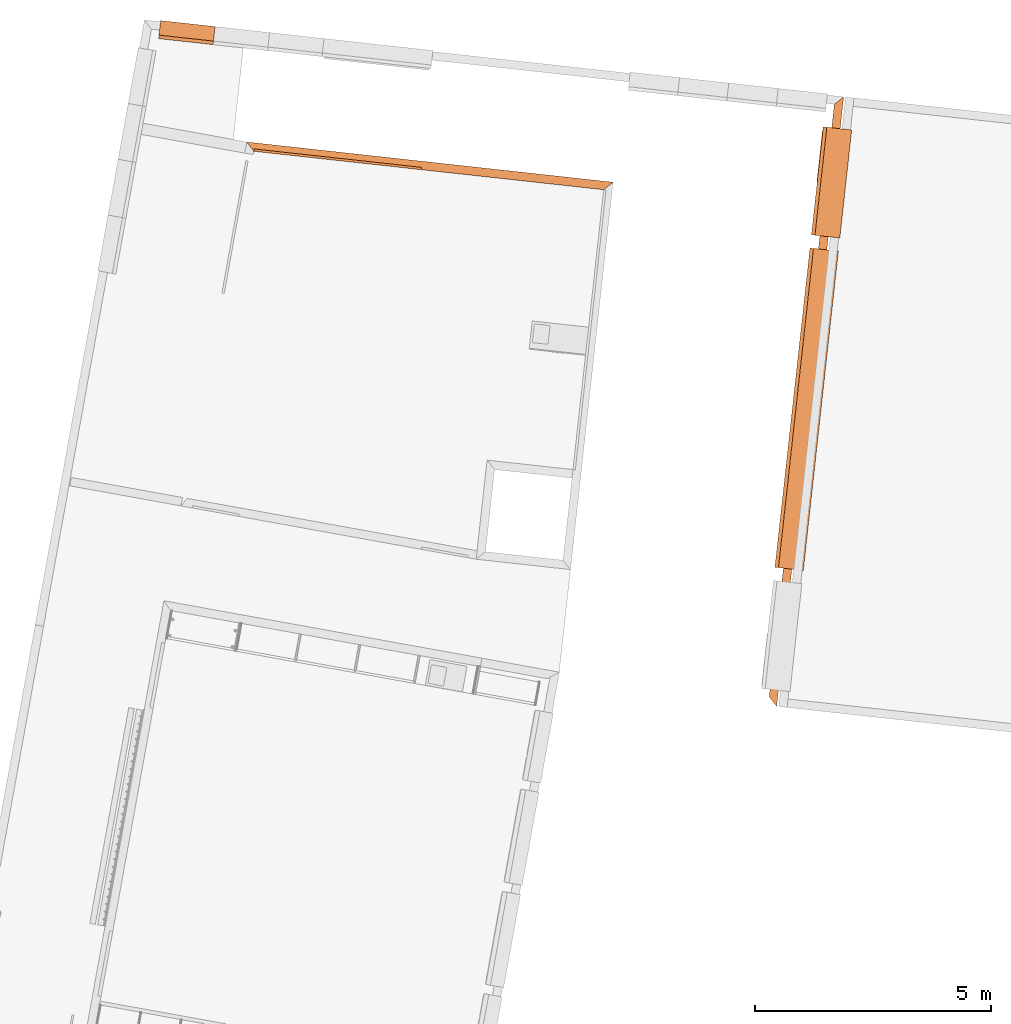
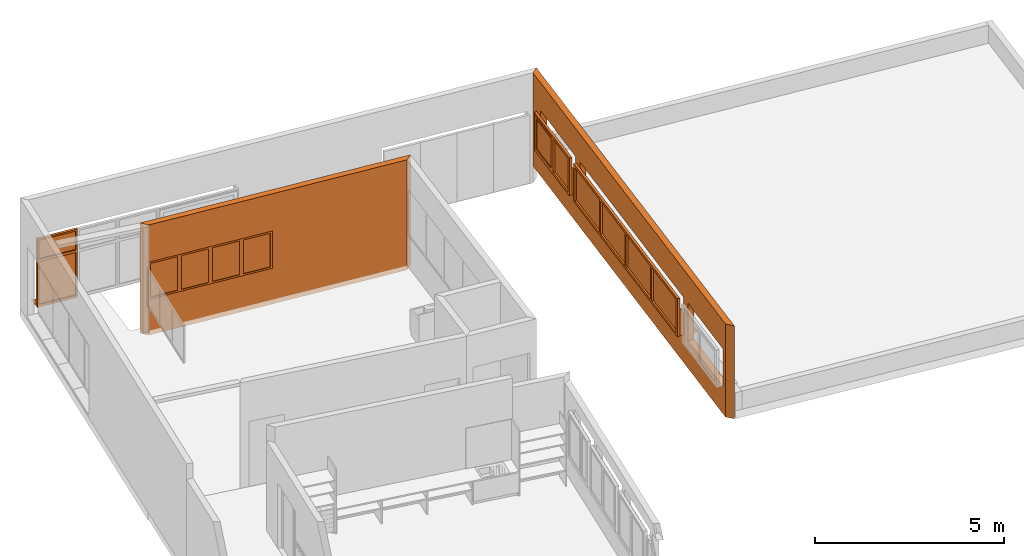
# One storey, part 49 of 52: 6 proxies.
"""IFC2X3 building model written with IfcOpenShell, lengths in metres."""

from ifc_helpers import new_model, entity, si_unit, converted_unit, derived_unit, money_unit, direction, frame, origin_with_axes, place, context, subcontext, project, spatial, polyline, outline, extrude, boolean, open_shell, faceted_brep, surface_model, material, type_object, element, save


model = new_model("IFC2X3")

# Units and contexts
model_context = context("Model", 3, precision=1e-05, world=origin_with_axes(), true_north=direction((0.0, 1.0)))
body_context = subcontext(model_context, "Body", "Model", "MODEL_VIEW")
ifc_project = project(units=[si_unit("LENGTHUNIT", "METRE"), si_unit("AREAUNIT", "SQUARE_METRE"), si_unit("VOLUMEUNIT", "CUBIC_METRE"), converted_unit("PLANEANGLEUNIT", "DEGREE", entity("IfcPlaneAngleMeasure", 0.0174532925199), si_unit("PLANEANGLEUNIT", "RADIAN"), dimensions=[0, 0, 0, 0, 0, 0, 0]), money_unit("CHF"), converted_unit("TIMEUNIT", "Year", entity("IfcTimeMeasure", 31556926.0), si_unit("TIMEUNIT", "SECOND"), dimensions=[0, 0, 1, 0, 0, 0, 0]), si_unit("MASSUNIT", "GRAM", prefix="KILO"), si_unit("THERMODYNAMICTEMPERATUREUNIT", "DEGREE_CELSIUS"), si_unit("LUMINOUSINTENSITYUNIT", "LUMEN"), si_unit("ENERGYUNIT", "JOULE", prefix="MEGA"), derived_unit("THERMALCONDUCTANCEUNIT", [(si_unit("POWERUNIT", "WATT"), 1), (si_unit("LENGTHUNIT", "METRE"), -1), (si_unit("THERMODYNAMICTEMPERATUREUNIT", "KELVIN"), -1)]), derived_unit("SPECIFICHEATCAPACITYUNIT", [(si_unit("ENERGYUNIT", "JOULE"), 1), (si_unit("MASSUNIT", "GRAM", prefix="KILO"), -1), (si_unit("THERMODYNAMICTEMPERATUREUNIT", "KELVIN"), -1)]), derived_unit("MASSDENSITYUNIT", [(si_unit("MASSUNIT", "GRAM", prefix="KILO"), 1), (si_unit("VOLUMEUNIT", "CUBIC_METRE"), -1)])], contexts=[model_context])

# Site, building, storey
site_placement = place(None, frame((0.0, 0.0, 0.0), z_axis=(0.0, 0.0, 1.0), x_axis=(-0.177771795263, -0.984071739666, 0.0)))
site = spatial("IfcSite", under=ifc_project, at=site_placement, Name="Site", CompositionType="ELEMENT")
building_placement = place(site_placement, origin_with_axes())
building = spatial("IfcBuilding", under=site, at=building_placement, Name="Bâtiment", CompositionType="ELEMENT")
storey_placement = place(building_placement, frame((0.0, 0.0, 3.2), z_axis=(0.0, 0.0, 1.0), x_axis=(1.0, 0.0, 0.0)))
storey = spatial("IfcBuildingStorey", under=building, at=storey_placement, Name="R+1", CompositionType="ELEMENT", Elevation=3.2)

# Proxies
ifc_material_1 = material(Name="_BA banché RAL9007")
building_element_proxy_type_1 = type_object("IfcBuildingElementProxyType", Name="_BA banché RAL9007 180", PredefinedType="NOTDEFINED")
proxy_1_placement = place(storey_placement, frame((100.056126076, -156.627050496, -0.15), z_axis=(0.0, 0.0, 1.0), x_axis=(-0.0692626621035, 0.997598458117, 0.0)))
element("IfcBuildingElementProxy", 1, at=proxy_1_placement, inside=storey, type_object=building_element_proxy_type_1, material=ifc_material_1, Name="M refend", context=body_context, shape_type="CSG", body=[
    boolean("DIFFERENCE", extrude(outline(polyline([(0.167936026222, -0.18), (7.62097471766, -0.18), (7.80097446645, 0.0), (0.0, 0.0), (0.167936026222, -0.18)])), origin_with_axes(), (0.0, 0.0, 1.0), 3.55), faceted_brep([(3.73888352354, 0.0, 1.15), (0.1680167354, 0.0, 1.15), (0.1680167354, 0.0, 2.35), (3.73888352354, 0.0, 2.35), (3.73888352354, -0.18, 1.15), (0.1680167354, -0.18, 1.15), (0.1680167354, -0.18, 2.35), (3.73888352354, -0.18, 2.35)], [[[0, 1, 2, 3]], [[4, 5, 1, 0]], [[5, 6, 2, 1]], [[6, 7, 3, 2]], [[7, 4, 0, 3]], [[4, 7, 6, 5]]])),
])
ifc_material_2 = material(Name="Matériau de construction IFC")
building_element_proxy_type_2 = type_object("IfcBuildingElementProxyType", Name="Fenêtre variable 21", PredefinedType="NOTDEFINED")
proxy_2_placement = place(storey_placement, frame((97.7963870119, -157.719655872, 0.0), z_axis=(0.0, 0.0, 1.0), x_axis=(0.0692640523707, -0.997598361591, 0.0)))
element("IfcBuildingElementProxy", 2, at=proxy_2_placement, inside=storey, type_object=building_element_proxy_type_2, material=ifc_material_2, Name="Baie angle-Nord", context=body_context, shape_type="SurfaceModel", body=[
    surface_model("IfcShellBasedSurfaceModel", [(0.0, 0.284, 0.02), (0.0, 0.284, 0.01), (1.16, 0.284, 0.01), (1.16, 0.284, 0.02), (0.0, -0.025, -0.00087719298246), (1.16, -0.025, -0.00087719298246), (0.0, -0.025, -0.0308771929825), (1.16, -0.025, -0.0308771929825), (0.0, -0.0125, -0.0183771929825), (1.16, -0.0125, -0.0183771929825)], [open_shell([[[0, 1, 2, 3]], [[1, 4, 5, 2]], [[4, 6, 7, 5]], [[6, 8, 9, 7]]])]),
    faceted_brep([(0.05, 0.285, 1.46), (0.05, 0.36, 1.46), (0.05, 0.36, 1.54), (0.05, 0.285, 1.54), (0.05, 0.285, 0.08), (0.05, 0.36, 0.08), (0.0, 0.36, 0.08), (0.0, 0.36, 2.149), (0.05, 0.36, 2.149), (0.05, 0.285, 2.149), (0.0, 0.285, 2.149), (0.0, 0.285, 0.08)], [[[0, 1, 2, 3]], [[4, 5, 1, 0]], [[1, 5, 6, 7, 8, 2]], [[3, 2, 8, 9]], [[0, 3, 9, 10, 11, 4]], [[11, 6, 5, 4]], [[10, 7, 6, 11]], [[9, 8, 7, 10]]]),
    faceted_brep([(1.11, 0.285, 0.08), (1.11, 0.36, 0.08), (1.16, 0.36, 0.08), (1.16, 0.285, 0.08), (1.11, 0.285, 1.46), (1.11, 0.36, 1.46), (1.11, 0.36, 1.54), (1.11, 0.36, 2.149), (1.16, 0.36, 2.149), (1.16, 0.285, 2.149), (1.11, 0.285, 2.149), (1.11, 0.285, 1.54)], [[[0, 1, 2, 3]], [[4, 5, 1, 0]], [[1, 5, 6, 7, 8, 2]], [[3, 2, 8, 9]], [[0, 3, 9, 10, 11, 4]], [[11, 6, 5, 4]], [[10, 7, 6, 11]], [[9, 8, 7, 10]]]),
    faceted_brep([(0.05, 0.285, 1.46), (0.05, 0.36, 1.46), (1.11, 0.36, 1.46), (1.11, 0.285, 1.46), (0.05, 0.285, 1.54), (0.05, 0.36, 1.54), (1.11, 0.36, 1.54), (1.11, 0.285, 1.54)], [[[0, 1, 2, 3]], [[4, 5, 1, 0]], [[1, 5, 6, 2]], [[3, 2, 6, 7]], [[0, 3, 7, 4]], [[7, 6, 5, 4]]]),
    faceted_brep([(0.05, 0.285, 0.08), (0.05, 0.36, 0.08), (0.0, 0.36, 0.08), (0.0, 0.285, 0.08), (1.11, 0.285, 0.08), (1.11, 0.36, 0.08), (1.16, 0.36, 0.08), (1.16, 0.36, 0.0), (0.0, 0.36, 0.0), (0.0, 0.285, 0.0), (1.16, 0.285, 0.0), (1.16, 0.285, 0.08)], [[[0, 1, 2, 3]], [[4, 5, 1, 0]], [[1, 5, 6, 7, 8, 2]], [[3, 2, 8, 9]], [[0, 3, 9, 10, 11, 4]], [[11, 6, 5, 4]], [[10, 7, 6, 11]], [[9, 8, 7, 10]]]),
    faceted_brep([(1.11, 0.285, 2.149), (1.11, 0.36, 2.149), (1.16, 0.36, 2.149), (1.16, 0.285, 2.149), (0.05, 0.285, 2.149), (0.05, 0.36, 2.149), (0.0, 0.36, 2.149), (0.0, 0.36, 2.199), (1.16, 0.36, 2.199), (1.16, 0.285, 2.199), (0.0, 0.285, 2.199), (0.0, 0.285, 2.149)], [[[0, 1, 2, 3]], [[4, 5, 1, 0]], [[1, 5, 6, 7, 8, 2]], [[3, 2, 8, 9]], [[0, 3, 9, 10, 11, 4]], [[11, 6, 5, 4]], [[10, 7, 6, 11]], [[9, 8, 7, 10]]]),
    surface_model("IfcShellBasedSurfaceModel", [(0.05, 0.3175, 1.54), (1.11, 0.3175, 1.54), (1.11, 0.3175, 2.149), (0.05, 0.3175, 2.149)], [open_shell([[[0, 1, 2, 3]]])]),
    surface_model("IfcShellBasedSurfaceModel", [(0.05, 0.3275, 1.54), (0.05, 0.3275, 2.149), (1.11, 0.3275, 2.149), (1.11, 0.3275, 1.54)], [open_shell([[[0, 1, 2, 3]]])]),
    surface_model("IfcShellBasedSurfaceModel", [(0.05, 0.3175, 0.08), (1.11, 0.3175, 0.08), (1.11, 0.3175, 1.46), (0.05, 0.3175, 1.46)], [open_shell([[[0, 1, 2, 3]]])]),
    surface_model("IfcShellBasedSurfaceModel", [(0.05, 0.3275, 0.08), (0.05, 0.3275, 1.46), (1.11, 0.3275, 1.46), (1.11, 0.3275, 0.08)], [open_shell([[[0, 1, 2, 3]]])]),
])
building_element_proxy_type_3 = type_object("IfcBuildingElementProxyType", Name="_M ext 18 +18 gris 360", PredefinedType="NOTDEFINED")
proxy_3_placement = place(storey_placement, frame((109.817230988, -143.463331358, 0.4), z_axis=(0.0, 0.0, 1.0), x_axis=(-0.997598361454, -0.0692640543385, 0.0)))
element("IfcBuildingElementProxy", 3, at=proxy_3_placement, inside=storey, type_object=building_element_proxy_type_3, material=ifc_material_1, Name="M ext-hall-Est", context=body_context, shape_type="CSG", body=[
    boolean("DIFFERENCE", boolean("DIFFERENCE", boolean("DIFFERENCE", extrude(outline(polyline([(0.0, 0.0), (12.9794250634, 0.0), (12.7994250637, 0.18), (0.180000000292, 0.18), (0.0, 0.0)])), origin_with_axes(), (0.0, 0.0, 1.0), 3.0), faceted_brep([(12.3000000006, 0.0, 0.88), (12.3000000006, 0.0, 2.1), (10.0000000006, 0.0, 2.1), (10.0000000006, 0.0, 0.88), (12.3000000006, 0.18, 0.88), (12.3000000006, 0.18, 2.1), (10.0000000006, 0.18, 2.1), (10.0000000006, 0.18, 0.88)], [[[0, 1, 2, 3]], [[4, 5, 1, 0]], [[5, 6, 2, 1]], [[6, 7, 3, 2]], [[7, 4, 0, 3]], [[4, 7, 6, 5]]])), faceted_brep([(9.72000000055, 0.0, 0.88), (9.72000000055, 0.0, 2.1), (2.92000000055, 0.0, 2.1), (2.92000000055, 0.0, 0.88), (9.72000000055, 0.18, 0.88), (9.72000000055, 0.18, 2.1), (2.92000000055, 0.18, 2.1), (2.92000000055, 0.18, 0.88)], [[[0, 1, 2, 3]], [[4, 5, 1, 0]], [[5, 6, 2, 1]], [[6, 7, 3, 2]], [[7, 4, 0, 3]], [[4, 7, 6, 5]]])), faceted_brep([(2.64000000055, 0.0, 0.88), (2.64000000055, 0.0, 2.1), (0.34000000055, 0.0, 2.1), (0.34000000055, 0.0, 0.88), (2.64000000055, 0.18, 0.88), (2.64000000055, 0.18, 2.1), (0.34000000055, 0.18, 2.1), (0.34000000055, 0.18, 0.88)], [[[0, 1, 2, 3]], [[4, 5, 1, 0]], [[5, 6, 2, 1]], [[6, 7, 3, 2]], [[7, 4, 0, 3]], [[4, 7, 6, 5]]])),
])
building_element_proxy_type_4 = type_object("IfcBuildingElementProxyType", Name="Fenêtre horizontale à châssis multiples 21", PredefinedType="NOTDEFINED")
proxy_4_placement = place(storey_placement, frame((99.8412473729, -144.155971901, 1.28), z_axis=(0.0, 0.0, 1.0), x_axis=(-0.997598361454, -0.0692640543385, 0.0)))
element("IfcBuildingElementProxy", 4, at=proxy_4_placement, inside=storey, type_object=building_element_proxy_type_4, material=ifc_material_2, Name="Fen vide-sur-hall-Est", context=body_context, shape_type="SurfaceModel", body=[
    surface_model("IfcShellBasedSurfaceModel", [(0.0, 0.284, 0.02), (0.0, 0.284, 0.01), (2.3, 0.284, 0.01), (2.3, 0.284, 0.02), (0.0, -0.245, -0.00859649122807), (2.3, -0.245, -0.00859649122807), (0.0, -0.245, -0.0385964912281), (2.3, -0.245, -0.0385964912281), (0.0, -0.23, -0.0235964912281), (2.3, -0.23, -0.0235964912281)], [open_shell([[[0, 1, 2, 3]], [[1, 4, 5, 2]], [[4, 6, 7, 5]], [[6, 8, 9, 7]]])]),
    faceted_brep([(2.225, 0.295, 1.145), (2.225, 0.285, 1.145), (2.3, 0.285, 1.145), (2.3, 0.36, 1.145), (2.235, 0.36, 1.145), (2.235, 0.295, 1.145), (2.225, 0.295, 0.075), (2.225, 0.285, 0.075), (2.3, 0.285, 0.075), (2.3, 0.36, 0.075), (2.235, 0.36, 0.075), (2.235, 0.295, 0.075)], [[[0, 1, 2, 3, 4, 5]], [[6, 7, 1, 0]], [[8, 2, 1, 7]], [[9, 3, 2, 8]], [[4, 3, 9, 10]], [[10, 11, 5, 4]], [[5, 11, 6, 0]], [[11, 10, 9, 8, 7, 6]]]),
    faceted_brep([(1.1275, 0.36, 1.145), (1.0625, 0.36, 1.145), (0.075, 0.36, 1.145), (0.0, 0.36, 1.145), (0.0, 0.36, 1.22), (2.3, 0.36, 1.22), (2.3, 0.36, 1.145), (2.235, 0.36, 1.145), (2.235, 0.36, 1.155), (1.1275, 0.36, 1.155), (1.1275, 0.295, 1.145), (1.1375, 0.295, 1.145), (1.1375, 0.285, 1.145), (1.0625, 0.285, 1.145), (0.075, 0.285, 1.145), (0.0, 0.285, 1.145), (0.0, 0.285, 1.22), (2.3, 0.285, 1.22), (2.3, 0.285, 1.145), (2.235, 0.295, 1.145), (2.225, 0.285, 1.145), (2.225, 0.295, 1.145), (2.235, 0.295, 1.155), (1.1275, 0.295, 1.155)], [[[0, 1, 2, 3, 4, 5, 6, 7, 8, 9]], [[10, 11, 12, 13, 1, 0]], [[2, 1, 13, 14]], [[3, 2, 14, 15]], [[4, 3, 15, 16]], [[5, 4, 16, 17]], [[6, 5, 17, 18]], [[19, 7, 6, 18, 20, 21]], [[7, 19, 22, 8]], [[8, 22, 23, 9]], [[9, 23, 10, 0]], [[21, 11, 10, 23, 22, 19]], [[21, 20, 12, 11]], [[18, 17, 16, 15, 14, 13, 12, 20]]]),
    faceted_brep([(2.225, 0.295, 0.075), (2.225, 0.285, 0.075), (2.3, 0.285, 0.075), (2.3, 0.36, 0.075), (2.235, 0.36, 0.075), (2.235, 0.295, 0.075), (1.1375, 0.295, 0.075), (1.1375, 0.285, 0.075), (1.0625, 0.285, 0.075), (0.075, 0.285, 0.075), (0.0, 0.285, 0.075), (0.0, 0.285, 0.0), (2.3, 0.285, 0.0), (2.3, 0.36, 0.0), (1.1275, 0.36, 0.065), (2.235, 0.36, 0.065), (0.0, 0.36, 0.0), (0.0, 0.36, 0.075), (0.075, 0.36, 0.075), (1.0625, 0.36, 0.075), (1.1275, 0.36, 0.075), (2.235, 0.295, 0.065), (1.1275, 0.295, 0.065), (1.1275, 0.295, 0.075)], [[[0, 1, 2, 3, 4, 5]], [[6, 7, 1, 0]], [[8, 9, 10, 11, 12, 2, 1, 7]], [[13, 3, 2, 12]], [[14, 15, 4, 3, 13, 16, 17, 18, 19, 20]], [[15, 21, 5, 4]], [[5, 21, 22, 23, 6, 0]], [[23, 20, 19, 8, 7, 6]], [[19, 18, 9, 8]], [[18, 17, 10, 9]], [[17, 16, 11, 10]], [[16, 13, 12, 11]], [[14, 22, 21, 15]], [[23, 22, 14, 20]]]),
    faceted_brep([(1.1275, 0.36, 1.145), (1.0625, 0.36, 1.145), (1.0625, 0.285, 1.145), (1.1375, 0.285, 1.145), (1.1375, 0.295, 1.145), (1.1275, 0.295, 1.145), (1.1275, 0.36, 0.075), (1.0625, 0.36, 0.075), (1.0625, 0.285, 0.075), (1.1375, 0.285, 0.075), (1.1375, 0.295, 0.075), (1.1275, 0.295, 0.075)], [[[0, 1, 2, 3, 4, 5]], [[6, 7, 1, 0]], [[1, 7, 8, 2]], [[3, 2, 8, 9]], [[4, 3, 9, 10]], [[10, 11, 5, 4]], [[5, 11, 6, 0]], [[11, 10, 9, 8, 7, 6]]]),
    faceted_brep([(0.075, 0.285, 1.145), (0.075, 0.36, 1.145), (0.0, 0.36, 1.145), (0.0, 0.285, 1.145), (0.075, 0.285, 0.075), (0.075, 0.36, 0.075), (0.0, 0.36, 0.075), (0.0, 0.285, 0.075)], [[[0, 1, 2, 3]], [[4, 5, 1, 0]], [[1, 5, 6, 2]], [[3, 2, 6, 7]], [[0, 3, 7, 4]], [[7, 6, 5, 4]]]),
    surface_model("IfcShellBasedSurfaceModel", [(0.075, 0.285, 0.075), (1.0625, 0.285, 0.075), (1.0625, 0.285, 1.145), (0.075, 0.285, 1.145)], [open_shell([[[0, 1, 2, 3]]])]),
    surface_model("IfcShellBasedSurfaceModel", [(0.075, 0.305, 0.075), (0.075, 0.305, 1.145), (1.0625, 0.305, 1.145), (1.0625, 0.305, 0.075)], [open_shell([[[0, 1, 2, 3]]])]),
    faceted_brep([(1.1875, 0.295, 1.095), (1.1875, 0.37, 1.095), (1.1275, 0.37, 1.095), (1.1275, 0.295, 1.095), (1.1875, 0.295, 0.125), (1.1875, 0.37, 0.125), (1.1275, 0.37, 0.125), (1.1275, 0.295, 0.125)], [[[0, 1, 2, 3]], [[4, 5, 1, 0]], [[1, 5, 6, 2]], [[3, 2, 6, 7]], [[0, 3, 7, 4]], [[7, 6, 5, 4]]]),
    faceted_brep([(2.175, 0.295, 0.125), (2.175, 0.37, 0.125), (2.235, 0.37, 0.125), (2.235, 0.295, 0.125), (2.175, 0.295, 1.095), (2.175, 0.37, 1.095), (2.235, 0.37, 1.095), (2.235, 0.295, 1.095)], [[[0, 1, 2, 3]], [[4, 5, 1, 0]], [[1, 5, 6, 2]], [[3, 2, 6, 7]], [[0, 3, 7, 4]], [[7, 6, 5, 4]]]),
    faceted_brep([(2.235, 0.295, 0.065), (2.235, 0.37, 0.065), (2.235, 0.37, 0.125), (2.235, 0.295, 0.125), (1.1275, 0.295, 0.065), (1.1275, 0.37, 0.065), (1.1275, 0.37, 0.125), (1.1875, 0.37, 0.125), (2.175, 0.37, 0.125), (2.175, 0.295, 0.125), (1.1875, 0.295, 0.125), (1.1275, 0.295, 0.125)], [[[0, 1, 2, 3]], [[4, 5, 1, 0]], [[1, 5, 6, 7, 8, 2]], [[3, 2, 8, 9]], [[0, 3, 9, 10, 11, 4]], [[11, 6, 5, 4]], [[10, 7, 6, 11]], [[9, 8, 7, 10]]]),
    faceted_brep([(1.1275, 0.295, 1.155), (1.1275, 0.37, 1.155), (1.1275, 0.37, 1.095), (1.1275, 0.295, 1.095), (2.235, 0.295, 1.155), (2.235, 0.37, 1.155), (2.235, 0.37, 1.095), (2.175, 0.37, 1.095), (1.1875, 0.37, 1.095), (1.1875, 0.295, 1.095), (2.175, 0.295, 1.095), (2.235, 0.295, 1.095)], [[[0, 1, 2, 3]], [[4, 5, 1, 0]], [[1, 5, 6, 7, 8, 2]], [[3, 2, 8, 9]], [[0, 3, 9, 10, 11, 4]], [[11, 6, 5, 4]], [[10, 7, 6, 11]], [[9, 8, 7, 10]]]),
    surface_model("IfcShellBasedSurfaceModel", [(1.1875, 0.3225, 0.125), (2.175, 0.3225, 0.125), (2.175, 0.3225, 1.095), (1.1875, 0.3225, 1.095)], [open_shell([[[0, 1, 2, 3]]])]),
    surface_model("IfcShellBasedSurfaceModel", [(1.1875, 0.3425, 0.125), (1.1875, 0.3425, 1.095), (2.175, 0.3425, 1.095), (2.175, 0.3425, 0.125)], [open_shell([[[0, 1, 2, 3]]])]),
])
proxy_5_placement = place(storey_placement, frame((106.904243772, -143.665582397, 1.28), z_axis=(0.0, 0.0, 1.0), x_axis=(-0.997598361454, -0.0692640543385, 0.0)))
element("IfcBuildingElementProxy", 5, at=proxy_5_placement, inside=storey, type_object=building_element_proxy_type_4, material=ifc_material_2, Name="Baie vide-sur-hall-Est", context=body_context, shape_type="SurfaceModel", body=[
    surface_model("IfcShellBasedSurfaceModel", [(0.0, 0.284, 0.02), (0.0, 0.284, 0.01), (6.8, 0.284, 0.01), (6.8, 0.284, 0.02), (0.0, -0.245, -0.00859649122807), (6.8, -0.245, -0.00859649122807), (0.0, -0.245, -0.0385964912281), (6.8, -0.245, -0.0385964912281), (0.0, -0.23, -0.0235964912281), (6.8, -0.23, -0.0235964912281)], [open_shell([[[0, 1, 2, 3]], [[1, 4, 5, 2]], [[4, 6, 7, 5]], [[6, 8, 9, 7]]])]),
    faceted_brep([(0.075, 0.285, 1.145), (0.075, 0.36, 1.145), (0.0, 0.36, 1.145), (0.0, 0.285, 1.145), (0.075, 0.285, 0.075), (0.075, 0.36, 0.075), (0.0, 0.36, 0.075), (0.0, 0.285, 0.075)], [[[0, 1, 2, 3]], [[4, 5, 1, 0]], [[1, 5, 6, 2]], [[3, 2, 6, 7]], [[0, 3, 7, 4]], [[7, 6, 5, 4]]]),
    faceted_brep([(6.725, 0.285, 0.075), (6.725, 0.36, 0.075), (6.8, 0.36, 0.075), (6.8, 0.285, 0.075), (6.725, 0.285, 1.145), (6.725, 0.36, 1.145), (6.8, 0.36, 1.145), (6.8, 0.285, 1.145)], [[[0, 1, 2, 3]], [[4, 5, 1, 0]], [[1, 5, 6, 2]], [[3, 2, 6, 7]], [[0, 3, 7, 4]], [[7, 6, 5, 4]]]),
    faceted_brep([(6.725, 0.285, 1.145), (6.725, 0.36, 1.145), (6.8, 0.36, 1.145), (6.8, 0.285, 1.145), (5.11875, 0.285, 1.145), (5.11875, 0.36, 1.145), (5.04375, 0.36, 1.145), (3.4375, 0.36, 1.145), (3.3625, 0.36, 1.145), (1.75625, 0.36, 1.145), (1.68125, 0.36, 1.145), (0.075, 0.36, 1.145), (0.0, 0.36, 1.145), (0.0, 0.36, 1.22), (6.8, 0.36, 1.22), (6.8, 0.285, 1.22), (0.0, 0.285, 1.22), (0.0, 0.285, 1.145), (0.075, 0.285, 1.145), (1.68125, 0.285, 1.145), (1.75625, 0.285, 1.145), (3.3625, 0.285, 1.145), (3.4375, 0.285, 1.145), (5.04375, 0.285, 1.145)], [[[0, 1, 2, 3]], [[4, 5, 1, 0]], [[1, 5, 6, 7, 8, 9, 10, 11, 12, 13, 14, 2]], [[3, 2, 14, 15]], [[0, 3, 15, 16, 17, 18, 19, 20, 21, 22, 23, 4]], [[23, 6, 5, 4]], [[22, 7, 6, 23]], [[21, 8, 7, 22]], [[20, 9, 8, 21]], [[19, 10, 9, 20]], [[18, 11, 10, 19]], [[17, 12, 11, 18]], [[16, 13, 12, 17]], [[15, 14, 13, 16]]]),
    faceted_brep([(5.11875, 0.285, 0.075), (5.11875, 0.36, 0.075), (5.04375, 0.36, 0.075), (5.04375, 0.285, 0.075), (6.725, 0.285, 0.075), (6.725, 0.36, 0.075), (6.8, 0.36, 0.075), (6.8, 0.36, 0.0), (0.0, 0.36, 0.0), (0.0, 0.36, 0.075), (0.075, 0.36, 0.075), (1.68125, 0.36, 0.075), (1.75625, 0.36, 0.075), (3.3625, 0.36, 0.075), (3.4375, 0.36, 0.075), (3.4375, 0.285, 0.075), (3.3625, 0.285, 0.075), (1.75625, 0.285, 0.075), (1.68125, 0.285, 0.075), (0.075, 0.285, 0.075), (0.0, 0.285, 0.075), (0.0, 0.285, 0.0), (6.8, 0.285, 0.0), (6.8, 0.285, 0.075)], [[[0, 1, 2, 3]], [[4, 5, 1, 0]], [[1, 5, 6, 7, 8, 9, 10, 11, 12, 13, 14, 2]], [[3, 2, 14, 15]], [[0, 3, 15, 16, 17, 18, 19, 20, 21, 22, 23, 4]], [[23, 6, 5, 4]], [[22, 7, 6, 23]], [[21, 8, 7, 22]], [[20, 9, 8, 21]], [[19, 10, 9, 20]], [[18, 11, 10, 19]], [[17, 12, 11, 18]], [[16, 13, 12, 17]], [[15, 14, 13, 16]]]),
    faceted_brep([(1.75625, 0.285, 0.075), (1.75625, 0.36, 0.075), (1.75625, 0.36, 1.145), (1.75625, 0.285, 1.145), (1.68125, 0.285, 0.075), (1.68125, 0.36, 0.075), (1.68125, 0.36, 1.145), (1.68125, 0.285, 1.145)], [[[0, 1, 2, 3]], [[4, 5, 1, 0]], [[1, 5, 6, 2]], [[3, 2, 6, 7]], [[0, 3, 7, 4]], [[7, 6, 5, 4]]]),
    faceted_brep([(3.4375, 0.285, 0.075), (3.4375, 0.36, 0.075), (3.4375, 0.36, 1.145), (3.4375, 0.285, 1.145), (3.3625, 0.285, 0.075), (3.3625, 0.36, 0.075), (3.3625, 0.36, 1.145), (3.3625, 0.285, 1.145)], [[[0, 1, 2, 3]], [[4, 5, 1, 0]], [[1, 5, 6, 2]], [[3, 2, 6, 7]], [[0, 3, 7, 4]], [[7, 6, 5, 4]]]),
    faceted_brep([(5.11875, 0.285, 0.075), (5.11875, 0.36, 0.075), (5.11875, 0.36, 1.145), (5.11875, 0.285, 1.145), (5.04375, 0.285, 0.075), (5.04375, 0.36, 0.075), (5.04375, 0.36, 1.145), (5.04375, 0.285, 1.145)], [[[0, 1, 2, 3]], [[4, 5, 1, 0]], [[1, 5, 6, 2]], [[3, 2, 6, 7]], [[0, 3, 7, 4]], [[7, 6, 5, 4]]]),
    surface_model("IfcShellBasedSurfaceModel", [(0.075, 0.285, 0.075), (1.68125, 0.285, 0.075), (1.68125, 0.285, 1.145), (0.075, 0.285, 1.145)], [open_shell([[[0, 1, 2, 3]]])]),
    surface_model("IfcShellBasedSurfaceModel", [(0.075, 0.305, 0.075), (0.075, 0.305, 1.145), (1.68125, 0.305, 1.145), (1.68125, 0.305, 0.075)], [open_shell([[[0, 1, 2, 3]]])]),
    surface_model("IfcShellBasedSurfaceModel", [(1.75625, 0.285, 0.075), (3.3625, 0.285, 0.075), (3.3625, 0.285, 1.145), (1.75625, 0.285, 1.145)], [open_shell([[[0, 1, 2, 3]]])]),
    surface_model("IfcShellBasedSurfaceModel", [(1.75625, 0.305, 0.075), (1.75625, 0.305, 1.145), (3.3625, 0.305, 1.145), (3.3625, 0.305, 0.075)], [open_shell([[[0, 1, 2, 3]]])]),
    surface_model("IfcShellBasedSurfaceModel", [(3.4375, 0.285, 0.075), (5.04375, 0.285, 0.075), (5.04375, 0.285, 1.145), (3.4375, 0.285, 1.145)], [open_shell([[[0, 1, 2, 3]]])]),
    surface_model("IfcShellBasedSurfaceModel", [(3.4375, 0.305, 0.075), (3.4375, 0.305, 1.145), (5.04375, 0.305, 1.145), (5.04375, 0.305, 0.075)], [open_shell([[[0, 1, 2, 3]]])]),
    surface_model("IfcShellBasedSurfaceModel", [(5.11875, 0.285, 0.075), (6.725, 0.285, 0.075), (6.725, 0.285, 1.145), (5.11875, 0.285, 1.145)], [open_shell([[[0, 1, 2, 3]]])]),
    surface_model("IfcShellBasedSurfaceModel", [(5.11875, 0.305, 0.075), (5.11875, 0.305, 1.145), (6.725, 0.305, 1.145), (6.725, 0.305, 0.075)], [open_shell([[[0, 1, 2, 3]]])]),
])
proxy_6_placement = place(storey_placement, frame((99.7971610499, -152.897146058, 1.0), z_axis=(0.0, 0.0, 1.0), x_axis=(0.0692626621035, -0.997598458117, 0.0)))
element("IfcBuildingElementProxy", 6, at=proxy_6_placement, inside=storey, type_object=building_element_proxy_type_4, material=ifc_material_2, Name="44", context=body_context, shape_type="SurfaceModel", body=[
    faceted_brep([(0.055, 0.13, 1.145), (0.055, 0.18, 1.145), (0.0, 0.18, 1.145), (0.0, 0.13, 1.145), (0.055, 0.13, 0.055), (0.055, 0.18, 0.055), (0.0, 0.18, 0.055), (0.0, 0.13, 0.055)], [[[0, 1, 2, 3]], [[4, 5, 1, 0]], [[1, 5, 6, 2]], [[3, 2, 6, 7]], [[0, 3, 7, 4]], [[7, 6, 5, 4]]]),
    faceted_brep([(3.51586678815, 0.13, 0.055), (3.51586678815, 0.18, 0.055), (3.57086678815, 0.18, 0.055), (3.57086678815, 0.13, 0.055), (3.51586678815, 0.13, 1.145), (3.51586678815, 0.18, 1.145), (3.57086678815, 0.18, 1.145), (3.57086678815, 0.13, 1.145)], [[[0, 1, 2, 3]], [[4, 5, 1, 0]], [[1, 5, 6, 2]], [[3, 2, 6, 7]], [[0, 3, 7, 4]], [[7, 6, 5, 4]]]),
    faceted_brep([(3.51586678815, 0.13, 1.145), (3.51586678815, 0.18, 1.145), (3.57086678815, 0.18, 1.145), (3.57086678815, 0.13, 1.145), (2.73315009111, 0.13, 1.145), (2.73315009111, 0.18, 1.145), (2.62315009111, 0.18, 1.145), (1.84043339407, 0.18, 1.145), (1.73043339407, 0.18, 1.145), (0.947716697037, 0.18, 1.145), (0.837716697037, 0.18, 1.145), (0.055, 0.18, 1.145), (0.0, 0.18, 1.145), (0.0, 0.18, 1.2), (3.57086678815, 0.18, 1.2), (3.57086678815, 0.13, 1.2), (0.0, 0.13, 1.2), (0.0, 0.13, 1.145), (0.055, 0.13, 1.145), (0.837716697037, 0.13, 1.145), (0.947716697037, 0.13, 1.145), (1.73043339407, 0.13, 1.145), (1.84043339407, 0.13, 1.145), (2.62315009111, 0.13, 1.145)], [[[0, 1, 2, 3]], [[4, 5, 1, 0]], [[1, 5, 6, 7, 8, 9, 10, 11, 12, 13, 14, 2]], [[3, 2, 14, 15]], [[0, 3, 15, 16, 17, 18, 19, 20, 21, 22, 23, 4]], [[23, 6, 5, 4]], [[22, 7, 6, 23]], [[21, 8, 7, 22]], [[20, 9, 8, 21]], [[19, 10, 9, 20]], [[18, 11, 10, 19]], [[17, 12, 11, 18]], [[16, 13, 12, 17]], [[15, 14, 13, 16]]]),
    faceted_brep([(2.73315009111, 0.13, 0.055), (2.73315009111, 0.18, 0.055), (2.62315009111, 0.18, 0.055), (2.62315009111, 0.13, 0.055), (3.51586678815, 0.13, 0.055), (3.51586678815, 0.18, 0.055), (3.57086678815, 0.18, 0.055), (3.57086678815, 0.18, 0.0), (0.0, 0.18, 0.0), (0.0, 0.18, 0.055), (0.055, 0.18, 0.055), (0.837716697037, 0.18, 0.055), (0.947716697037, 0.18, 0.055), (1.73043339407, 0.18, 0.055), (1.84043339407, 0.18, 0.055), (1.84043339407, 0.13, 0.055), (1.73043339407, 0.13, 0.055), (0.947716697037, 0.13, 0.055), (0.837716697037, 0.13, 0.055), (0.055, 0.13, 0.055), (0.0, 0.13, 0.055), (0.0, 0.13, 0.0), (3.57086678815, 0.13, 0.0), (3.57086678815, 0.13, 0.055)], [[[0, 1, 2, 3]], [[4, 5, 1, 0]], [[1, 5, 6, 7, 8, 9, 10, 11, 12, 13, 14, 2]], [[3, 2, 14, 15]], [[0, 3, 15, 16, 17, 18, 19, 20, 21, 22, 23, 4]], [[23, 6, 5, 4]], [[22, 7, 6, 23]], [[21, 8, 7, 22]], [[20, 9, 8, 21]], [[19, 10, 9, 20]], [[18, 11, 10, 19]], [[17, 12, 11, 18]], [[16, 13, 12, 17]], [[15, 14, 13, 16]]]),
    faceted_brep([(0.947716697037, 0.13, 0.055), (0.947716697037, 0.18, 0.055), (0.947716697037, 0.18, 1.145), (0.947716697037, 0.13, 1.145), (0.837716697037, 0.13, 0.055), (0.837716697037, 0.18, 0.055), (0.837716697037, 0.18, 1.145), (0.837716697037, 0.13, 1.145)], [[[0, 1, 2, 3]], [[4, 5, 1, 0]], [[1, 5, 6, 2]], [[3, 2, 6, 7]], [[0, 3, 7, 4]], [[7, 6, 5, 4]]]),
    faceted_brep([(1.84043339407, 0.13, 0.055), (1.84043339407, 0.18, 0.055), (1.84043339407, 0.18, 1.145), (1.84043339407, 0.13, 1.145), (1.73043339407, 0.13, 0.055), (1.73043339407, 0.18, 0.055), (1.73043339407, 0.18, 1.145), (1.73043339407, 0.13, 1.145)], [[[0, 1, 2, 3]], [[4, 5, 1, 0]], [[1, 5, 6, 2]], [[3, 2, 6, 7]], [[0, 3, 7, 4]], [[7, 6, 5, 4]]]),
    faceted_brep([(2.73315009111, 0.13, 0.055), (2.73315009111, 0.18, 0.055), (2.73315009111, 0.18, 1.145), (2.73315009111, 0.13, 1.145), (2.62315009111, 0.13, 0.055), (2.62315009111, 0.18, 0.055), (2.62315009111, 0.18, 1.145), (2.62315009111, 0.13, 1.145)], [[[0, 1, 2, 3]], [[4, 5, 1, 0]], [[1, 5, 6, 2]], [[3, 2, 6, 7]], [[0, 3, 7, 4]], [[7, 6, 5, 4]]]),
    surface_model("IfcShellBasedSurfaceModel", [(0.055, 0.145, 0.055), (0.837716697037, 0.145, 0.055), (0.837716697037, 0.145, 1.145), (0.055, 0.145, 1.145)], [open_shell([[[0, 1, 2, 3]]])]),
    surface_model("IfcShellBasedSurfaceModel", [(0.055, 0.165, 0.055), (0.055, 0.165, 1.145), (0.837716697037, 0.165, 1.145), (0.837716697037, 0.165, 0.055)], [open_shell([[[0, 1, 2, 3]]])]),
    surface_model("IfcShellBasedSurfaceModel", [(0.947716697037, 0.145, 0.055), (1.73043339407, 0.145, 0.055), (1.73043339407, 0.145, 1.145), (0.947716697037, 0.145, 1.145)], [open_shell([[[0, 1, 2, 3]]])]),
    surface_model("IfcShellBasedSurfaceModel", [(0.947716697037, 0.165, 0.055), (0.947716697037, 0.165, 1.145), (1.73043339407, 0.165, 1.145), (1.73043339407, 0.165, 0.055)], [open_shell([[[0, 1, 2, 3]]])]),
    surface_model("IfcShellBasedSurfaceModel", [(1.84043339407, 0.145, 0.055), (2.62315009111, 0.145, 0.055), (2.62315009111, 0.145, 1.145), (1.84043339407, 0.145, 1.145)], [open_shell([[[0, 1, 2, 3]]])]),
    surface_model("IfcShellBasedSurfaceModel", [(1.84043339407, 0.165, 0.055), (1.84043339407, 0.165, 1.145), (2.62315009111, 0.165, 1.145), (2.62315009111, 0.165, 0.055)], [open_shell([[[0, 1, 2, 3]]])]),
    surface_model("IfcShellBasedSurfaceModel", [(2.73315009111, 0.145, 0.055), (3.51586678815, 0.145, 0.055), (3.51586678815, 0.145, 1.145), (2.73315009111, 0.145, 1.145)], [open_shell([[[0, 1, 2, 3]]])]),
    surface_model("IfcShellBasedSurfaceModel", [(2.73315009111, 0.165, 0.055), (2.73315009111, 0.165, 1.145), (3.51586678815, 0.165, 1.145), (3.51586678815, 0.165, 0.055)], [open_shell([[[0, 1, 2, 3]]])]),
])

save(model, "model.ifc")
